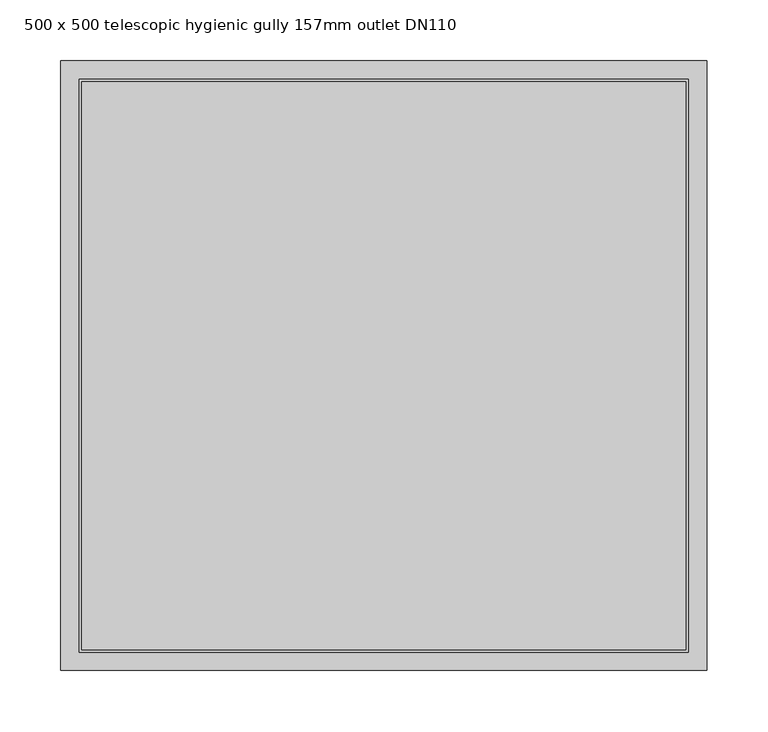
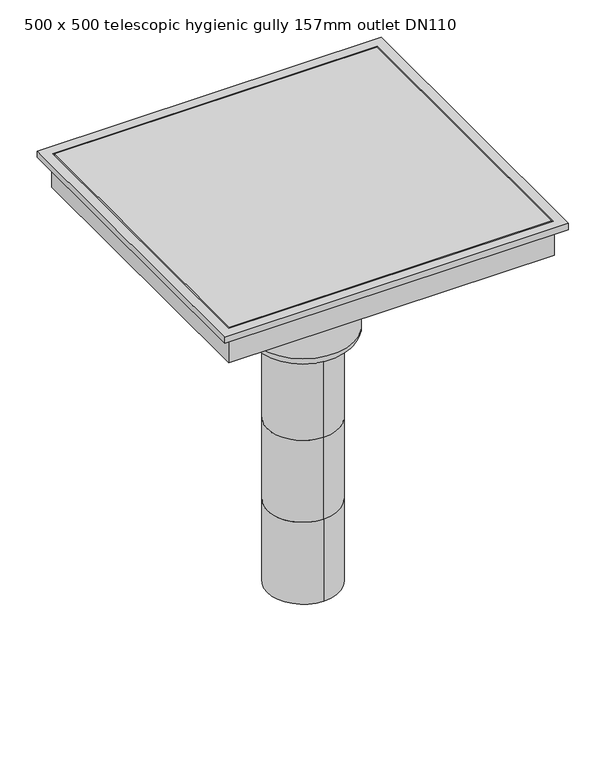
"""IFC4 building model written with IfcOpenShell, lengths in millimetres: sanitary terminal geometry, PF_ST_UN_Siphon telescopics eskis elongated hygiene first_ACO : 500 x 500 telescopic hygienic gully 157mm outlet DN110."""

from ifc_helpers import new_model, si_unit, point, frame, origin, origin_2d, place, context, project, spatial, polyline, circle_curve, ellipse_curve, trimmed, segment, composite_curve, outline, extrude, faceted_brep, source, transform, mapped, element, save
from ifc_brep_helpers import plane_surface, cylinder_surface, revolved_surface, advanced_brep


def sanitary_terminal_500_x_500_telescopic_hygienic_gully_157mm_d6af614a(model_context):
    return source(origin(), model_context, "Body", "SolidModel", [
        extrude(outline(composite_curve([segment(trimmed(circle_curve(origin_2d(), 71.5), [point((-71.5, 0.0))], [point((71.5, 0.0))], False, "CARTESIAN"), True, "CONTINUOUS"), segment(trimmed(circle_curve(origin_2d(), 71.5), [point((71.5, 0.0))], [point((-71.5, 0.0))], False, "CARTESIAN"), True, "CONTINUOUS")], self_intersect=False)), frame((0.0, 0.0, -240.0), z_axis=(0.0, 0.0, 1.0), x_axis=(1.0, 0.0, 0.0)), (0.0, 0.0, 1.0), 65.0),
        faceted_brep([(265.0, 250.0, -130.0), (265.0, 250.0, -120.0), (265.0, -250.0, -120.0), (265.0, -250.0, -130.0), (251.0, 236.0, -175.0), (251.0, 236.0, -130.0), (251.0, -236.0, -130.0), (251.0, -236.0, -175.0), (250.0, -235.0, -120.0), (250.0, 235.0, -120.0), (250.0, 235.0, -165.0), (250.0, -235.0, -165.0), (-265.0, -250.0, -120.0), (-265.0, -250.0, -130.0), (-251.0, -236.0, -130.0), (-251.0, -236.0, -175.0), (-250.0, -235.0, -120.0), (-250.0, -235.0, -165.0), (-265.0, 250.0, -120.0), (-265.0, 250.0, -130.0), (-251.0, 236.0, -130.0), (-251.0, 236.0, -175.0), (-250.0, 235.0, -120.0), (-250.0, 235.0, -165.0)], [[[0, 1, 2, 3]], [[4, 5, 6, 7]], [[8, 9, 10, 11]], [[3, 2, 12, 13]], [[7, 6, 14, 15]], [[16, 8, 11, 17]], [[13, 12, 18, 19]], [[15, 14, 20, 21]], [[22, 16, 17, 23]], [[2, 1, 18, 12], [9, 8, 16, 22]], [[1, 0, 19, 18]], [[0, 3, 13, 19], [6, 5, 20, 14]], [[5, 4, 21, 20]], [[4, 7, 15, 21]], [[9, 22, 23, 10]], [[11, 10, 23, 17]]]),
        extrude(outline(polyline([(248.0, 233.0), (248.0, -233.0), (-248.0, -233.0), (-248.0, 233.0), (248.0, 233.0)])), frame((0.0, 0.0, -165.0), z_axis=(0.0, 0.0, 1.0), x_axis=(1.0, 0.0, 0.0)), (0.0, 0.0, 1.0), 45.0),
        advanced_brep(
        [(0.0, -55.0, -761.0), (0.0, 55.0, -761.0), (0.0, -55.0, -627.6666667), (0.0, 55.0, -627.6666667), (0.0, -55.0, -494.3333333), (0.0, 55.0, -494.3333333), (0.0, 55.0, -361.0), (55.0, 0.0, -361.0), (0.0, -55.0, -361.0), (-55.0, 0.0, -361.0), (78.5, 0.0, -344.5), (-78.5, 0.0, -344.5), (-78.5, 0.0, -192.0), (78.5, 0.0, -192.0), (62.0, 0.0, -361.0), (-62.0, 0.0, -361.0), (-179.0, 0.0, -192.0), (179.0, 0.0, -192.0), (-179.0, 0.0, -190.0), (179.0, 0.0, -190.0)],
        [
            (0, 1, circle_curve(frame((0.0, 0.0, -761.0), z_axis=(0.0, 0.0, -1.0), x_axis=(0.0, 1.0, 0.0)), 55.0)),
            (1, 0, circle_curve(frame((0.0, 0.0, -761.0), z_axis=(0.0, 0.0, -1.0), x_axis=(0.0, 1.0, 0.0)), 55.0)),
            (0, 2),
            (2, 3, circle_curve(frame((0.0, 0.0, -627.6666667), z_axis=(0.0, 0.0, -1.0), x_axis=(0.0, 1.0, 0.0)), 55.0)),
            (3, 1),
            (3, 2, circle_curve(frame((0.0, 0.0, -627.6666667), z_axis=(0.0, 0.0, -1.0), x_axis=(0.0, 1.0, 0.0)), 55.0)),
            (4, 2),
            (3, 5),
            (5, 4, circle_curve(frame((0.0, 0.0, -494.3333333), z_axis=(0.0, 0.0, -1.0), x_axis=(1.0, 0.0, 0.0)), 55.0)),
            (4, 5, circle_curve(frame((0.0, 0.0, -494.3333333), z_axis=(0.0, 0.0, -1.0), x_axis=(-1.0, 0.0, 0.0)), 55.0)),
            (5, 6),
            (6, 7, circle_curve(frame((0.0, 0.0, -361.0), z_axis=(0.0, 0.0, -1.0), x_axis=(0.0, 1.0, 0.0)), 55.0)),
            (7, 8, circle_curve(frame((0.0, 0.0, -361.0), z_axis=(0.0, 0.0, -1.0), x_axis=(0.0, 1.0, 0.0)), 55.0)),
            (8, 4),
            (8, 9, circle_curve(frame((0.0, 0.0, -361.0), z_axis=(0.0, 0.0, -1.0), x_axis=(0.0, 1.0, 0.0)), 55.0)),
            (9, 6, circle_curve(frame((0.0, 0.0, -361.0), z_axis=(0.0, 0.0, -1.0), x_axis=(0.0, 1.0, 0.0)), 55.0)),
            (10, 11, circle_curve(frame((0.0, 0.0, -344.5), z_axis=(0.0, 0.0, 1.0), x_axis=(-1.0, 0.0, 0.0)), 78.5)),
            (11, 12),
            (12, 13, circle_curve(frame((0.0, 0.0, -192.0), z_axis=(0.0, 0.0, -1.0), x_axis=(-1.0, 0.0, 0.0)), 78.5)),
            (13, 10),
            (11, 10, circle_curve(frame((0.0, 0.0, -344.5), z_axis=(0.0, 0.0, 1.0), x_axis=(-1.0, 0.0, 0.0)), 78.5)),
            (13, 12, circle_curve(frame((0.0, 0.0, -192.0), z_axis=(0.0, 0.0, -1.0), x_axis=(-1.0, 0.0, 0.0)), 78.5)),
            (10, 14, circle_curve(frame((62.0, 0.0, -344.5), z_axis=(0.0, 1.0, 0.0), x_axis=(-1.0, 0.0, 0.0)), 16.5)),
            (14, 15, circle_curve(frame((0.0, 0.0, -361.0), z_axis=(0.0, 0.0, 1.0), x_axis=(-1.0, 0.0, 0.0)), 62.0)),
            (15, 11, circle_curve(frame((-62.0, 0.0, -344.5), z_axis=(0.0, 1.0, 0.0), x_axis=(1.0, 0.0, 0.0)), 16.5)),
            (15, 14, circle_curve(frame((0.0, 0.0, -361.0), z_axis=(0.0, 0.0, 1.0), x_axis=(-1.0, 0.0, 0.0)), 62.0)),
            (14, 7),
            (9, 15),
            (16, 17, circle_curve(frame((0.0, 0.0, -192.0), z_axis=(0.0, 0.0, -1.0), x_axis=(1.0, 0.0, 0.0)), 179.0)),
            (17, 16, circle_curve(frame((0.0, 0.0, -192.0), z_axis=(0.0, 0.0, -1.0), x_axis=(1.0, 0.0, 0.0)), 179.0)),
            (18, 19, circle_curve(frame((0.0, 0.0, -190.0), z_axis=(0.0, 0.0, 1.0), x_axis=(1.0, 0.0, 0.0)), 179.0)),
            (19, 18, circle_curve(frame((0.0, 0.0, -190.0), z_axis=(0.0, 0.0, 1.0), x_axis=(1.0, 0.0, 0.0)), 179.0)),
            (17, 19),
            (18, 16),
        ],
        [
            plane_surface(frame((0.0, 55.0, -761.0), z_axis=(0.0, 0.0, -1.0), x_axis=(1.0, 0.0, 0.0))),
            cylinder_surface(frame((0.0, 0.0, -627.6666667), z_axis=(0.0, 0.0, -1.0), x_axis=(0.0, 1.0, 0.0)), 55.0),
            cylinder_surface(frame((0.0, 0.0, -494.3333333), z_axis=(0.0, 0.0, -1.0), x_axis=(1.0, 0.0, 0.0)), 55.0),
            cylinder_surface(frame((0.0, 0.0, -494.3333333), z_axis=(0.0, 0.0, -1.0), x_axis=(-1.0, 0.0, 0.0)), 55.0),
            cylinder_surface(frame((0.0, 0.0, -361.0), z_axis=(0.0, 0.0, -1.0), x_axis=(0.0, 1.0, 0.0)), 55.0),
            cylinder_surface(frame((0.0, 0.0, -130.0), z_axis=(0.0, 0.0, -1.0), x_axis=(-1.0, 0.0, 0.0)), 78.5),
            revolved_surface(trimmed(ellipse_curve(frame((-62.0, 0.0, -344.5), z_axis=(0.0, -1.0, 0.0), x_axis=(1.0, 0.0, 0.0)), 16.5, 16.5), [point((-78.5, 0.0, -344.5))], [point((-62.0, 0.0, -361.0))], True, "CARTESIAN"), (0.0, 0.0, -130.0), (0.0, 0.0, -1.0)),
            plane_surface(frame((0.0, 0.0, -361.0), z_axis=(0.0, 0.0, -1.0), x_axis=(-1.0, 0.0, 0.0))),
            plane_surface(frame((179.0, 0.0, -192.0), z_axis=(0.0, 0.0, -1.0), x_axis=(0.0, -1.0, 0.0))),
            plane_surface(frame((179.0, 0.0, -190.0), z_axis=(0.0, 0.0, 1.0), x_axis=(0.0, 1.0, 0.0))),
            cylinder_surface(frame((0.0, 0.0, -192.0), z_axis=(0.0, 0.0, 1.0), x_axis=(1.0, 0.0, 0.0)), 179.0),
        ],
        [
            (0, [[1, 2]]),
            (1, [[-1, 3, 4, 5]]),
            (1, [[-2, -5, 6, -3]]),
            (2, [[7, -6, 8, 9]]),
            (3, [[-7, 10, -8, -4]]),
            (4, [[11, 12, 13, 14, -9]]),
            (4, [[-11, -10, -14, 15, 16]]),
            (5, [[17, 18, 19, 20]]),
            (5, [[-18, 21, -20, 22]]),
            (6, [[-17, 23, 24, 25]]),
            (6, [[-21, -25, 26, -23]]),
            (7, [[-24, 27, -12, -16, 28]]),
            (7, [[-26, -28, -15, -13, -27]]),
            (8, [[29, 30], [-19, -22]]),
            (9, [[31, 32]]),
            (10, [[-30, 33, -31, 34]]),
            (10, [[-29, -34, -32, -33]]),
        ],
    ),
    ])


if __name__ == "__main__":
    model = new_model("IFC4")
    model_context = context("Model", 3, world=origin())
    ifc_project = project(units=[si_unit("LENGTHUNIT", "METRE", prefix="MILLI")], contexts=[model_context])
    site = spatial("IfcSite", under=ifc_project)
    building = spatial("IfcBuilding", under=site)
    placement = place(None, origin())
    sanitary_terminal_500_x_500_telescopic_hygienic_gully_157mm_shape = sanitary_terminal_500_x_500_telescopic_hygienic_gully_157mm_d6af614a(model_context)
    element("IfcSanitaryTerminal", 1, ObjectType="PF_ST_UN_Siphon telescopics eskis elongated hygiene first_ACO : 500 x 500 telescopic hygienic gully 157mm outlet DN110", at=placement, inside=building, context=model_context, shape_type="MappedRepresentation", body=[
        mapped(sanitary_terminal_500_x_500_telescopic_hygienic_gully_157mm_shape, transform((0.0, 0.0, 0.0), x_axis=(1.0, 0.0, 0.0), y_axis=(0.0, 1.0, 0.0), z_axis=(0.0, 0.0, 1.0))),
    ])
    save(model, "model.ifc")
